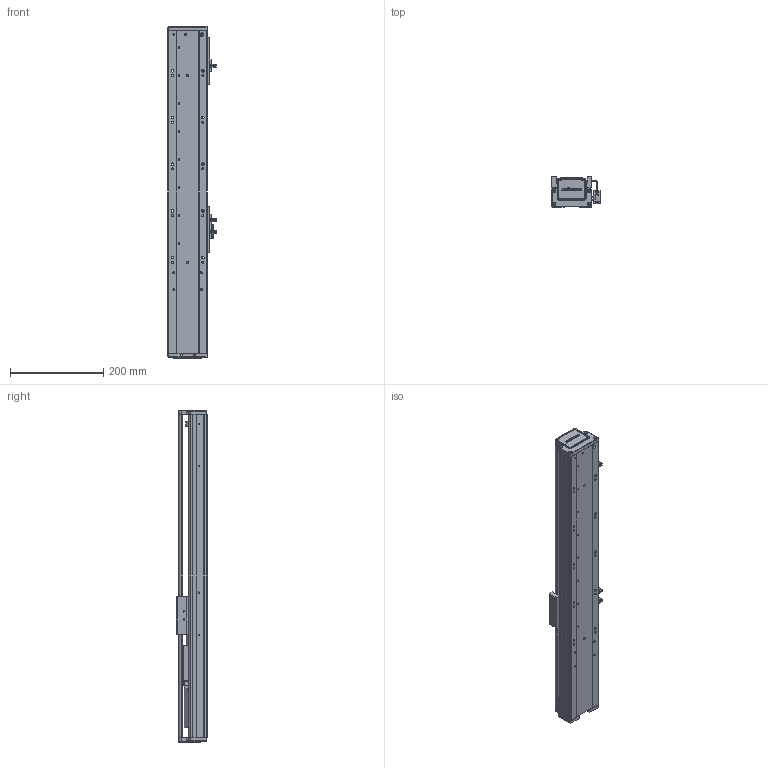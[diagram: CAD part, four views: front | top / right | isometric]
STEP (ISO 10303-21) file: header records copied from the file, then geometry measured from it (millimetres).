
FILE_DESCRIPTION (( 'STEP AP203' ), '1' );
FILE_NAME ('RY80-L1620-300-IK.SLDASM_350.step', '2021-02-22T05:28:46', ( '盈信电脑' ), ( '东莞市道滘镇水果街19号' ), 'SwSTEP 2.0', 'SolidWorks 2012', '' );
FILE_SCHEMA (( 'CONFIG_CONTROL_DESIGN' ));
Length unit declared in the file: millimetre
Products named in the file (14): 滅袉蝶18-24; RY80-L1620-300-IK.SLDASM_350; RY80囀离ヶ啣; RY80俋离覜茼え; RY80囀离萇儂啣; 侂狟100W; RY80綴裔啣; 滅袉蝶18-10; 覜茼ん672; 672嫖萇羲壽假蚾釱; RY80-300倰第奻裔啣-IK_350; RY80萇儂傷盓傅釱; RY80臏賑輸; RY80-300倰第菁釱-IK_350
Assembly tree (16 placements, depth 2):
  RY80-L1620-300-IK.SLDASM_350
    RY80-300倰第菁釱-IK_350
    RY80臏賑輸
    RY80-300倰第奻裔啣-IK_350
    RY80萇儂傷盓傅釱
    RY80綴裔啣
    滅袉蝶18-10
    672嫖萇羲壽假蚾釱  x2
    覜茼ん672  x3
    RY80俋离覜茼え
    侂狟100W
    RY80囀离萇儂啣
    RY80囀离ヶ啣
    滅袉蝶18-24
Bounding box: 103.7 x 65 x 711 mm (x, y, z)
Volume: 1339450.7 mm3; surface area: 547470.2 mm2
Topology: 16 solids, 16 shells, 2009 faces, 5556 edges, 3623 vertices
Faces by surface type: plane 1258, cylinder 615, cone 92, bspline 44
Entity records: 62653 total; most frequent: CARTESIAN_POINT 15329, ORIENTED_EDGE 9832, DIRECTION 8939, EDGE_CURVE 4916, LINE 3373, VECTOR 3373, VERTEX_POINT 3239, AXIS2_PLACEMENT_3D 2783
